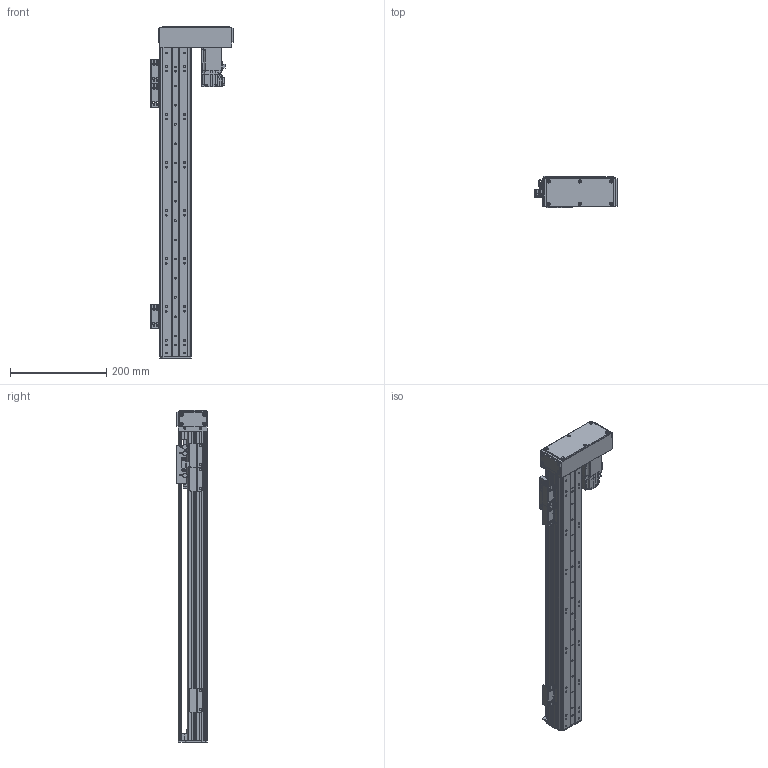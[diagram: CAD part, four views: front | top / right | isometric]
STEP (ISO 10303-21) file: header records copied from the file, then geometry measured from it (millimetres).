
FILE_DESCRIPTION(/* description */ ('MANUFACTURE'),/* implementation_level */ '2;1');
FILE_NAME(/* name */ '\\192.168.0.160\disk1\HAN SHIN Master\B-설계부문\C-표준\B-2024년\BC02-표준도면\+로봇 개선표준도면\표준 승인도 작업 폴더\3D\HG65\HG65 병렬\우병렬\HG65-R10-N-0500-L10 .stp',/* time_stamp */ '2024-01-31T11:28:35+09:00',/* author */ ('User'),/* organization */ (''),/* preprocessor_version */ 'ST-DEVELOPER v18.1',/* originating_system */ 'Autodesk Inventor 2022',/* authorisation */ 'LIP');
FILE_SCHEMA (('AUTOMOTIVE_DESIGN { 1 0 10303 214 3 1 1 }'));
Products named in the file (22): HG65-R10-N-0500-L10 - 간소화; HR65 R BASE; HR65 REAR COVER; HR65 FRONT BLOCK; HR65 FRONT BLOCK_1; HR65 UPCOVER (S); HC1STOPPER; MOTOR PLATE-100W(MITSUBISHI); hg-kr13_; 화살표; HR65-LR-BELT COVER; HR65-BELT COVER-COVER; HR65-BELT COVER-COVER2; HR65-BELT COVER-COVER3; HR65 TABLE(Wide&Normal); ESF1210 NUT; HR65 L,R MOTOR PLATE (100W)-사출_MIR; HR65,75 SENSOR DOG; hsr_ftht_A-M6F_grease_nipple_joint; NIPPLE CAP(신규); SENSOR BRK(EE-SX674A); EE_SX674A
Assembly tree (34 placements, depth 2):
  HG65-R10-N-0500-L10 - 간소화
    HR65 R BASE
    HR65 REAR COVER
    HR65 FRONT BLOCK
    HR65 FRONT BLOCK_1
    HC1STOPPER  x4
    HR65 UPCOVER (S)
    MOTOR PLATE-100W(MITSUBISHI)
    hg-kr13_
    화살표  x2
    HR65-LR-BELT COVER
    HR65-BELT COVER-COVER
    HR65-BELT COVER-COVER2
    HR65-BELT COVER-COVER3  x2
    HR65 TABLE(Wide&Normal)
    ESF1210 NUT
    HR65 L,R MOTOR PLATE (100W)-사출_MIR
    SENSOR BRK(EE-SX674A)  x3
    EE_SX674A  x3
    HR65,75 SENSOR DOG
    hsr_ftht_A-M6F_grease_nipple_joint  x3
    NIPPLE CAP(신규)  x3
Bounding box: 172 x 65 x 691 mm (x, y, z)
Volume: 1047721.9 mm3; surface area: 533759.2 mm2
Topology: 34 solids, 34 shells, 2706 faces, 7447 edges, 4901 vertices
Faces by surface type: plane 1788, cylinder 678, cone 177, sphere 24, bspline 21, torus 18
Full cylindrical faces by diameter (mm): 2.459 x62, 3 x18, 3.242 x61, 3.4 x32, 3.5 x14, 4 x14, 4.134 x1, 4.5 x45, 4.917 x5, 5 x12, 5.6 x5, 5.9 x2, 6 x15, 6.5 x10, 8 x16, 9 x4, 10 x1, 12 x1, 15 x1, 16 x1, 17 x1, 22 x2, 24 x1, 24.5 x1, 28 x2, 29.4 x1, 30 x2
Entity records: 77109 total; most frequent: CARTESIAN_POINT 15056, ORIENTED_EDGE 12710, DIRECTION 12202, EDGE_CURVE 6355, LINE 4876, VECTOR 4876, VERTEX_POINT 4217, AXIS2_PLACEMENT_3D 3663
